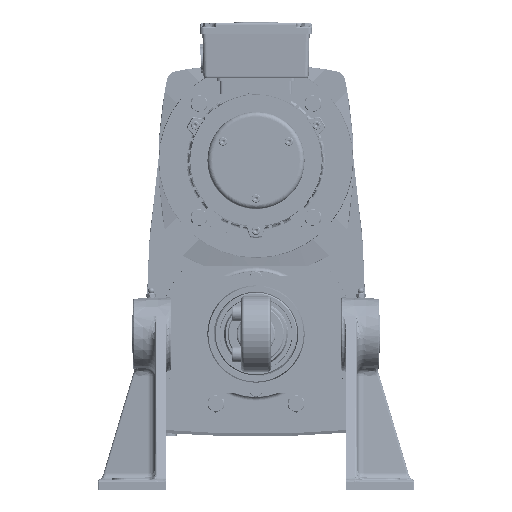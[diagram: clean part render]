
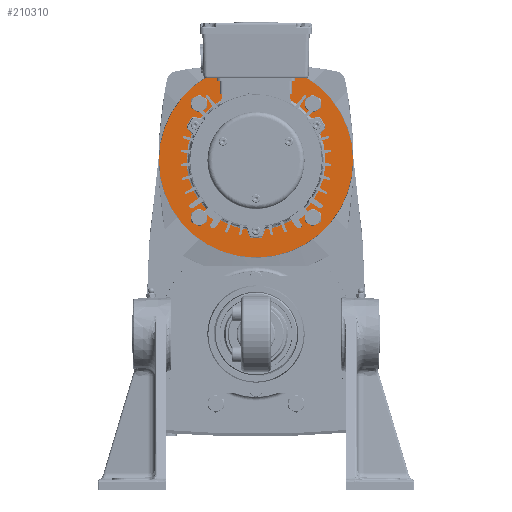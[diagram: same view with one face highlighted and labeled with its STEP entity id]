
A CAD part, front view. The second image highlights one B-rep face of the part: STEP entity #210310.
In plain terms, the highlighted planar face has unit normal (0, -1, 0) as drawn and (0, 1, 0) by its records, which use the part's own axes.
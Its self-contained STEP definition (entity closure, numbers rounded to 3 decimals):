
#4197=CIRCLE('',#221674,71.368);
#4198=CIRCLE('',#221676,71.368);
#4205=CIRCLE('',#221685,99.511);
#4206=CIRCLE('',#221687,2.149);
#4207=CIRCLE('',#221688,2.149);
#4208=CIRCLE('',#221689,79.449);
#4209=CIRCLE('',#221690,2.149);
#4210=CIRCLE('',#221691,2.149);
#4211=CIRCLE('',#221692,79.449);
#4212=CIRCLE('',#221693,2.149);
#4213=CIRCLE('',#221694,71.368);
#4214=CIRCLE('',#221695,2.149);
#4215=CIRCLE('',#221696,79.449);
#12539=PLANE('',#221686);
#22452=LINE('',#303922,#38574);
#22453=LINE('',#303923,#38575);
#22454=LINE('',#303931,#38576);
#22455=LINE('',#303932,#38577);
#22456=LINE('',#303940,#38578);
#22457=LINE('',#303944,#38579);
#38574=VECTOR('',#250504,1000.);
#38575=VECTOR('',#250505,1000.);
#38576=VECTOR('',#250512,1000.);
#38577=VECTOR('',#250513,1000.);
#38578=VECTOR('',#250520,1000.);
#38579=VECTOR('',#250523,1000.);
#67722=ORIENTED_EDGE('',*,*,#110943,.T.);
#67723=ORIENTED_EDGE('',*,*,#110944,.T.);
#67724=ORIENTED_EDGE('',*,*,#110930,.T.);
#67725=ORIENTED_EDGE('',*,*,#110945,.T.);
#67726=ORIENTED_EDGE('',*,*,#110946,.T.);
#67727=ORIENTED_EDGE('',*,*,#110947,.T.);
#67728=ORIENTED_EDGE('',*,*,#110948,.T.);
#67729=ORIENTED_EDGE('',*,*,#110949,.T.);
#67730=ORIENTED_EDGE('',*,*,#110933,.T.);
#67731=ORIENTED_EDGE('',*,*,#110950,.T.);
#67732=ORIENTED_EDGE('',*,*,#110951,.T.);
#67733=ORIENTED_EDGE('',*,*,#110952,.T.);
#67734=ORIENTED_EDGE('',*,*,#110953,.T.);
#67735=ORIENTED_EDGE('',*,*,#110954,.T.);
#67736=ORIENTED_EDGE('',*,*,#110955,.T.);
#67737=ORIENTED_EDGE('',*,*,#110956,.T.);
#67738=ORIENTED_EDGE('',*,*,#110957,.T.);
#67739=ORIENTED_EDGE('',*,*,#110958,.T.);
#67740=ORIENTED_EDGE('',*,*,#110942,.F.);
#110930=EDGE_CURVE('',#134106,#134111,#4197,.T.);
#110933=EDGE_CURVE('',#134115,#134114,#4198,.T.);
#110942=EDGE_CURVE('',#134123,#134123,#4205,.T.);
#110943=EDGE_CURVE('',#134124,#134125,#4206,.F.);
#110944=EDGE_CURVE('',#134125,#134106,#22452,.F.);
#110945=EDGE_CURVE('',#134111,#134126,#22453,.F.);
#110946=EDGE_CURVE('',#134126,#134127,#4207,.F.);
#110947=EDGE_CURVE('',#134127,#134128,#4208,.F.);
#110948=EDGE_CURVE('',#134128,#134129,#4209,.F.);
#110949=EDGE_CURVE('',#134129,#134115,#22454,.F.);
#110950=EDGE_CURVE('',#134114,#134130,#22455,.F.);
#110951=EDGE_CURVE('',#134130,#134131,#4210,.F.);
#110952=EDGE_CURVE('',#134131,#134132,#4211,.F.);
#110953=EDGE_CURVE('',#134132,#134133,#4212,.F.);
#110954=EDGE_CURVE('',#134133,#134134,#22456,.F.);
#110955=EDGE_CURVE('',#134134,#134135,#4213,.T.);
#110956=EDGE_CURVE('',#134135,#134136,#22457,.F.);
#110957=EDGE_CURVE('',#134136,#134137,#4214,.F.);
#110958=EDGE_CURVE('',#134137,#134124,#4215,.F.);
#134106=VERTEX_POINT('',#303859);
#134111=VERTEX_POINT('',#303877);
#134114=VERTEX_POINT('',#303890);
#134115=VERTEX_POINT('',#303892);
#134123=VERTEX_POINT('',#303917);
#134124=VERTEX_POINT('',#303920);
#134125=VERTEX_POINT('',#303921);
#134126=VERTEX_POINT('',#303924);
#134127=VERTEX_POINT('',#303926);
#134128=VERTEX_POINT('',#303928);
#134129=VERTEX_POINT('',#303930);
#134130=VERTEX_POINT('',#303933);
#134131=VERTEX_POINT('',#303935);
#134132=VERTEX_POINT('',#303937);
#134133=VERTEX_POINT('',#303939);
#134134=VERTEX_POINT('',#303941);
#134135=VERTEX_POINT('',#303943);
#134136=VERTEX_POINT('',#303945);
#134137=VERTEX_POINT('',#303947);
#149641=EDGE_LOOP('',(#67722,#67723,#67724,#67725,#67726,#67727,#67728,
#67729,#67730,#67731,#67732,#67733,#67734,#67735,#67736,#67737,#67738,#67739));
#149642=EDGE_LOOP('',(#67740));
#159675=FACE_BOUND('',#149641,.T.);
#159676=FACE_BOUND('',#149642,.T.);
#210310=ADVANCED_FACE('',(#159675,#159676),#12539,.T.);
#221674=AXIS2_PLACEMENT_3D('',#303878,#250476,#250477);
#221676=AXIS2_PLACEMENT_3D('',#303891,#250480,#250481);
#221685=AXIS2_PLACEMENT_3D('',#303916,#250498,#250499);
#221686=AXIS2_PLACEMENT_3D('',#303918,#250500,#250501);
#221687=AXIS2_PLACEMENT_3D('',#303919,#250502,#250503);
#221688=AXIS2_PLACEMENT_3D('',#303925,#250506,#250507);
#221689=AXIS2_PLACEMENT_3D('',#303927,#250508,#250509);
#221690=AXIS2_PLACEMENT_3D('',#303929,#250510,#250511);
#221691=AXIS2_PLACEMENT_3D('',#303934,#250514,#250515);
#221692=AXIS2_PLACEMENT_3D('',#303936,#250516,#250517);
#221693=AXIS2_PLACEMENT_3D('',#303938,#250518,#250519);
#221694=AXIS2_PLACEMENT_3D('',#303942,#250521,#250522);
#221695=AXIS2_PLACEMENT_3D('',#303946,#250524,#250525);
#221696=AXIS2_PLACEMENT_3D('',#303948,#250526,#250527);
#250476=DIRECTION('',(0.,-1.,0.));
#250477=DIRECTION('',(1.,0.,0.));
#250480=DIRECTION('',(0.,-1.,0.));
#250481=DIRECTION('',(1.,0.,0.));
#250498=DIRECTION('',(0.,-1.,0.));
#250499=DIRECTION('',(1.,0.,0.));
#250500=DIRECTION('',(0.,1.,0.));
#250501=DIRECTION('',(-1.,0.,0.));
#250502=DIRECTION('',(0.,1.,0.));
#250503=DIRECTION('',(-1.,0.,0.));
#250504=DIRECTION('',(-0.643,0.,0.766));
#250505=DIRECTION('',(-0.342,0.,0.94));
#250506=DIRECTION('',(0.,1.,0.));
#250507=DIRECTION('',(-1.,0.,0.));
#250508=DIRECTION('',(0.,1.,0.));
#250509=DIRECTION('',(-1.,0.,0.));
#250510=DIRECTION('',(0.,1.,0.));
#250511=DIRECTION('',(-1.,0.,0.));
#250512=DIRECTION('',(-0.342,0.,-0.94));
#250513=DIRECTION('',(-0.643,0.,-0.766));
#250514=DIRECTION('',(0.,1.,0.));
#250515=DIRECTION('',(-1.,0.,0.));
#250516=DIRECTION('',(0.,1.,0.));
#250517=DIRECTION('',(-1.,0.,0.));
#250518=DIRECTION('',(0.,1.,0.));
#250519=DIRECTION('',(-1.,0.,0.));
#250520=DIRECTION('',(0.985,0.,0.174));
#250521=DIRECTION('',(0.,-1.,0.));
#250522=DIRECTION('',(1.,0.,0.));
#250523=DIRECTION('',(0.985,0.,-0.174));
#250524=DIRECTION('',(0.,1.,0.));
#250525=DIRECTION('',(-1.,0.,0.));
#250526=DIRECTION('',(0.,1.,0.));
#250527=DIRECTION('',(-1.,0.,0.));
#303859=CARTESIAN_POINT('',(-65.912,-13.504,27.368));
#303877=CARTESIAN_POINT('',(-9.255,-13.504,-70.766));
#303878=CARTESIAN_POINT('',(0.,-13.504,0.));
#303890=CARTESIAN_POINT('',(65.912,-13.504,27.368));
#303891=CARTESIAN_POINT('',(0.,-13.504,0.));
#303892=CARTESIAN_POINT('',(9.255,-13.504,-70.766));
#303916=CARTESIAN_POINT('',(0.,-13.504,0.));
#303917=CARTESIAN_POINT('',(99.511,-13.504,0.));
#303918=CARTESIAN_POINT('',(0.,-13.504,71.368));
#303919=CARTESIAN_POINT('',(-69.143,-13.504,34.562));
#303920=CARTESIAN_POINT('',(-71.065,-13.504,35.524));
#303921=CARTESIAN_POINT('',(-70.79,-13.504,33.181));
#303922=CARTESIAN_POINT('',(-66.223,-13.504,27.739));
#303923=CARTESIAN_POINT('',(-6.659,-13.504,-77.896));
#303924=CARTESIAN_POINT('',(-6.659,-13.504,-77.897));
#303925=CARTESIAN_POINT('',(-4.64,-13.504,-77.161));
#303926=CARTESIAN_POINT('',(-4.77,-13.504,-79.306));
#303927=CARTESIAN_POINT('',(0.,-13.504,0.));
#303928=CARTESIAN_POINT('',(4.768,-13.504,-79.306));
#303929=CARTESIAN_POINT('',(4.64,-13.504,-77.161));
#303930=CARTESIAN_POINT('',(6.659,-13.504,-77.896));
#303931=CARTESIAN_POINT('',(9.089,-13.504,-71.221));
#303932=CARTESIAN_POINT('',(70.79,-13.504,33.181));
#303933=CARTESIAN_POINT('',(70.79,-13.504,33.181));
#303934=CARTESIAN_POINT('',(69.143,-13.504,34.562));
#303935=CARTESIAN_POINT('',(71.066,-13.504,35.522));
#303936=CARTESIAN_POINT('',(0.,-13.504,0.));
#303937=CARTESIAN_POINT('',(66.297,-13.504,43.782));
#303938=CARTESIAN_POINT('',(64.503,-13.504,42.599));
#303939=CARTESIAN_POINT('',(64.13,-13.504,44.715));
#303940=CARTESIAN_POINT('',(57.134,-13.504,43.482));
#303941=CARTESIAN_POINT('',(56.658,-13.504,43.398));
#303942=CARTESIAN_POINT('',(0.,-13.504,0.));
#303943=CARTESIAN_POINT('',(-56.658,-13.504,43.398));
#303944=CARTESIAN_POINT('',(-64.13,-13.504,44.715));
#303945=CARTESIAN_POINT('',(-64.131,-13.504,44.715));
#303946=CARTESIAN_POINT('',(-64.503,-13.504,42.599));
#303947=CARTESIAN_POINT('',(-66.296,-13.504,43.784));
#303948=CARTESIAN_POINT('',(0.,-13.504,0.));
